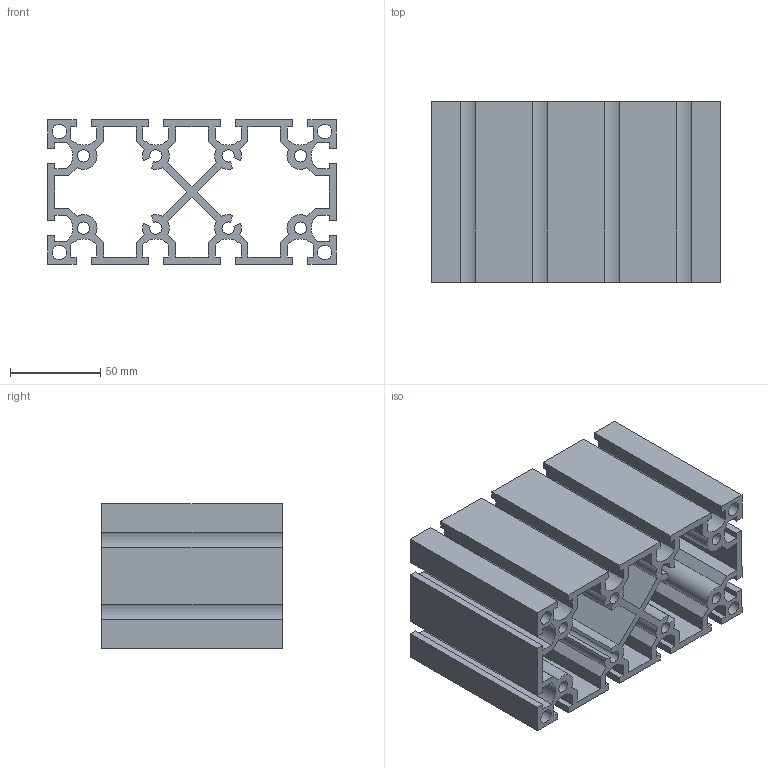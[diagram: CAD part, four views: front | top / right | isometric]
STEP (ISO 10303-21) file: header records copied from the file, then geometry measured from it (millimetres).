
FILE_DESCRIPTION(/* description */ ('Unknown'),/* implementation_level */ '2;1');
FILE_NAME(/* name */ 'NM80160',/* time_stamp */ '2026-08-31T11:44:39+08:00',/* author */ ('Unknown'),/* organization */ ('Unknown'),/* preprocessor_version */ 'ST-DEVELOPER v16.7',/* originating_system */ 'DEX',/* authorisation */ $);
FILE_SCHEMA (('AUTOMOTIVE_DESIGN {1 0 10303 214 3 1 1}'));
Length unit declared in the file: millimetre
Products named in the file (1): 80160-
Bounding box: 160 x 100 x 80 mm (x, y, z)
Volume: 360815.8 mm3; surface area: 195289.4 mm2
Topology: 1 solids, 1 shells, 186 faces, 552 edges, 368 vertices
Faces by surface type: plane 146, cylinder 40
Full cylindrical faces by diameter (mm): 6.8 x4, 8 x4
Entity records: 6214 total; most frequent: CARTESIAN_POINT 1099, ORIENTED_EDGE 1088, DIRECTION 998, EDGE_CURVE 544, LINE 464, VECTOR 464, VERTEX_POINT 368, AXIS2_PLACEMENT_3D 267
